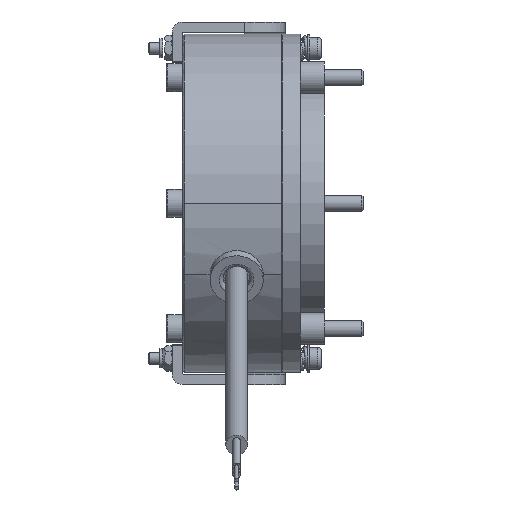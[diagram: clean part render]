
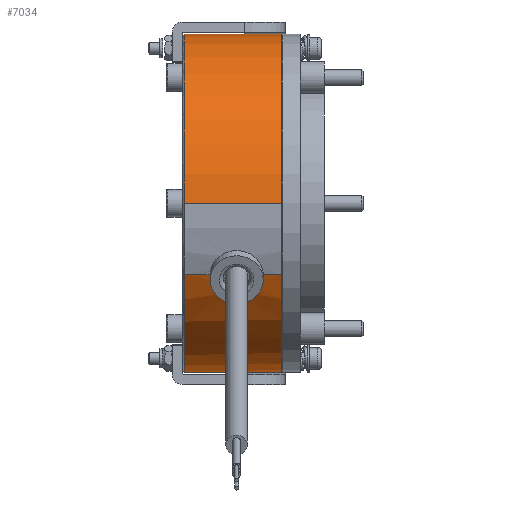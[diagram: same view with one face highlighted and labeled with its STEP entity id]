
A CAD part, front view. The second image highlights one B-rep face of the part: STEP entity #7034.
In plain terms, the highlighted cylindrical face has radius 42 mm (diameter 84 mm), a partial arc.
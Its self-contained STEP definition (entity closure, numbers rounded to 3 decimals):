
#90=B_SPLINE_CURVE_WITH_KNOTS('',3,(#10845,#10846,#10847,#10848,#10849,
#10850,#10851,#10852,#10853,#10854,#10855,#10856,#10857,#10858,#10859,#10860,
#10861,#10862,#10863),.UNSPECIFIED.,.F.,.F.,(4,2,2,2,3,2,2,2,4),(2.3,
2.492,2.684,2.875,3.067,3.258,
3.449,3.641,3.833),.UNSPECIFIED.);
#225=CYLINDRICAL_SURFACE('',#7515,42.);
#553=CIRCLE('',#7516,42.);
#554=CIRCLE('',#7517,42.);
#555=CIRCLE('',#7518,42.);
#556=CIRCLE('',#7519,42.);
#985=FACE_OUTER_BOUND('',#1375,.T.);
#1375=EDGE_LOOP('',(#4796,#4797,#4798,#4799,#4800,#4801,#4802,#4803,#4804,
#4805));
#1847=LINE('',#10829,#2243);
#1848=LINE('',#10835,#2244);
#1849=LINE('',#10841,#2245);
#1850=LINE('',#10843,#2246);
#1851=LINE('',#10864,#2247);
#2243=VECTOR('',#8559,42.);
#2244=VECTOR('',#8564,42.);
#2245=VECTOR('',#8569,42.);
#2246=VECTOR('',#8570,10.);
#2247=VECTOR('',#8571,10.);
#2776=VERTEX_POINT('',#10827);
#2777=VERTEX_POINT('',#10828);
#2778=VERTEX_POINT('',#10830);
#2779=VERTEX_POINT('',#10832);
#2780=VERTEX_POINT('',#10834);
#2781=VERTEX_POINT('',#10836);
#2782=VERTEX_POINT('',#10838);
#2783=VERTEX_POINT('',#10840);
#2784=VERTEX_POINT('',#10842);
#2785=VERTEX_POINT('',#10844);
#3547=EDGE_CURVE('',#2776,#2777,#1847,.T.);
#3548=EDGE_CURVE('',#2778,#2776,#553,.T.);
#3549=EDGE_CURVE('',#2779,#2778,#554,.T.);
#3550=EDGE_CURVE('',#2780,#2779,#1848,.T.);
#3551=EDGE_CURVE('',#2781,#2780,#555,.T.);
#3552=EDGE_CURVE('',#2782,#2781,#556,.T.);
#3553=EDGE_CURVE('',#2783,#2782,#1849,.T.);
#3554=EDGE_CURVE('',#2784,#2783,#1850,.T.);
#3555=EDGE_CURVE('',#2784,#2785,#90,.T.);
#3556=EDGE_CURVE('',#2777,#2785,#1851,.T.);
#4796=ORIENTED_EDGE('',*,*,#3547,.F.);
#4797=ORIENTED_EDGE('',*,*,#3548,.F.);
#4798=ORIENTED_EDGE('',*,*,#3549,.F.);
#4799=ORIENTED_EDGE('',*,*,#3550,.F.);
#4800=ORIENTED_EDGE('',*,*,#3551,.F.);
#4801=ORIENTED_EDGE('',*,*,#3552,.F.);
#4802=ORIENTED_EDGE('',*,*,#3553,.F.);
#4803=ORIENTED_EDGE('',*,*,#3554,.F.);
#4804=ORIENTED_EDGE('',*,*,#3555,.T.);
#4805=ORIENTED_EDGE('',*,*,#3556,.F.);
#7034=ADVANCED_FACE('',(#985),#225,.T.);
#7515=AXIS2_PLACEMENT_3D('',#10826,#8557,#8558);
#7516=AXIS2_PLACEMENT_3D('',#10831,#8560,#8561);
#7517=AXIS2_PLACEMENT_3D('',#10833,#8562,#8563);
#7518=AXIS2_PLACEMENT_3D('',#10837,#8565,#8566);
#7519=AXIS2_PLACEMENT_3D('',#10839,#8567,#8568);
#8557=DIRECTION('center_axis',(1.,0.,0.));
#8558=DIRECTION('ref_axis',(0.,0.906,0.423));
#8559=DIRECTION('',(1.,0.,0.));
#8560=DIRECTION('center_axis',(-1.,0.,0.));
#8561=DIRECTION('ref_axis',(0.,-1.,0.));
#8562=DIRECTION('center_axis',(-1.,0.,0.));
#8563=DIRECTION('ref_axis',(0.,-1.,0.));
#8564=DIRECTION('',(-1.,0.,0.));
#8565=DIRECTION('center_axis',(1.,0.,0.));
#8566=DIRECTION('ref_axis',(0.,1.,0.));
#8567=DIRECTION('center_axis',(1.,0.,0.));
#8568=DIRECTION('ref_axis',(0.,1.,0.));
#8569=DIRECTION('',(1.,0.,0.));
#8570=DIRECTION('',(1.,0.,0.));
#8571=DIRECTION('',(1.,0.,0.));
#10826=CARTESIAN_POINT('Origin',(-12.3,0.,0.));
#10827=CARTESIAN_POINT('',(-24.1,-38.065,-17.75));
#10828=CARTESIAN_POINT('',(-17.7,-38.065,-17.75));
#10829=CARTESIAN_POINT('',(-12.3,-38.065,-17.75));
#10830=CARTESIAN_POINT('',(-24.1,42.,0.));
#10831=CARTESIAN_POINT('Origin',(-24.1,0.,0.));
#10832=CARTESIAN_POINT('',(-24.1,-42.,0.));
#10833=CARTESIAN_POINT('Origin',(-24.1,0.,0.));
#10834=CARTESIAN_POINT('',(0.,-42.,0.));
#10835=CARTESIAN_POINT('',(-12.3,-42.,0.));
#10836=CARTESIAN_POINT('',(0.,0.,-42.));
#10837=CARTESIAN_POINT('Origin',(0.,0.,0.));
#10838=CARTESIAN_POINT('',(0.,-38.065,-17.75));
#10839=CARTESIAN_POINT('Origin',(0.,0.,0.));
#10840=CARTESIAN_POINT('',(-4.5,-38.065,-17.75));
#10841=CARTESIAN_POINT('',(-12.3,-38.065,-17.75));
#10842=CARTESIAN_POINT('',(-6.,-38.065,-17.75));
#10843=CARTESIAN_POINT('',(-12.3,-38.065,-17.75));
#10844=CARTESIAN_POINT('',(-16.2,-38.065,-17.75));
#10845=CARTESIAN_POINT('Ctrl Pts',(-6.,-38.065,
-17.75));
#10846=CARTESIAN_POINT('Ctrl Pts',(-6.,-37.795,
-18.329));
#10847=CARTESIAN_POINT('Ctrl Pts',(-6.129,-37.492,
-18.94));
#10848=CARTESIAN_POINT('Ctrl Pts',(-6.653,-36.911,
-20.049));
#10849=CARTESIAN_POINT('Ctrl Pts',(-7.047,-36.633,-20.548));
#10850=CARTESIAN_POINT('Ctrl Pts',(-7.954,-36.184,
-21.328));
#10851=CARTESIAN_POINT('Ctrl Pts',(-8.527,-35.983,
-21.662));
#10852=CARTESIAN_POINT('Ctrl Pts',(-9.781,-35.714,
-22.104));
#10853=CARTESIAN_POINT('Ctrl Pts',(-10.462,-35.646,
-22.212));
#10854=CARTESIAN_POINT('Ctrl Pts',(-11.1,-35.646,
-22.212));
#10855=CARTESIAN_POINT('Ctrl Pts',(-11.737,-35.646,
-22.212));
#10856=CARTESIAN_POINT('Ctrl Pts',(-12.417,-35.714,
-22.104));
#10857=CARTESIAN_POINT('Ctrl Pts',(-13.669,-35.982,
-21.664));
#10858=CARTESIAN_POINT('Ctrl Pts',(-14.241,-36.183,-21.331));
#10859=CARTESIAN_POINT('Ctrl Pts',(-15.149,-36.631,-20.552));
#10860=CARTESIAN_POINT('Ctrl Pts',(-15.545,-36.909,
-20.052));
#10861=CARTESIAN_POINT('Ctrl Pts',(-16.07,-37.491,
-18.942));
#10862=CARTESIAN_POINT('Ctrl Pts',(-16.2,-37.794,-18.33));
#10863=CARTESIAN_POINT('Ctrl Pts',(-16.2,-38.065,
-17.75));
#10864=CARTESIAN_POINT('',(-19.5,-38.065,-17.75));
